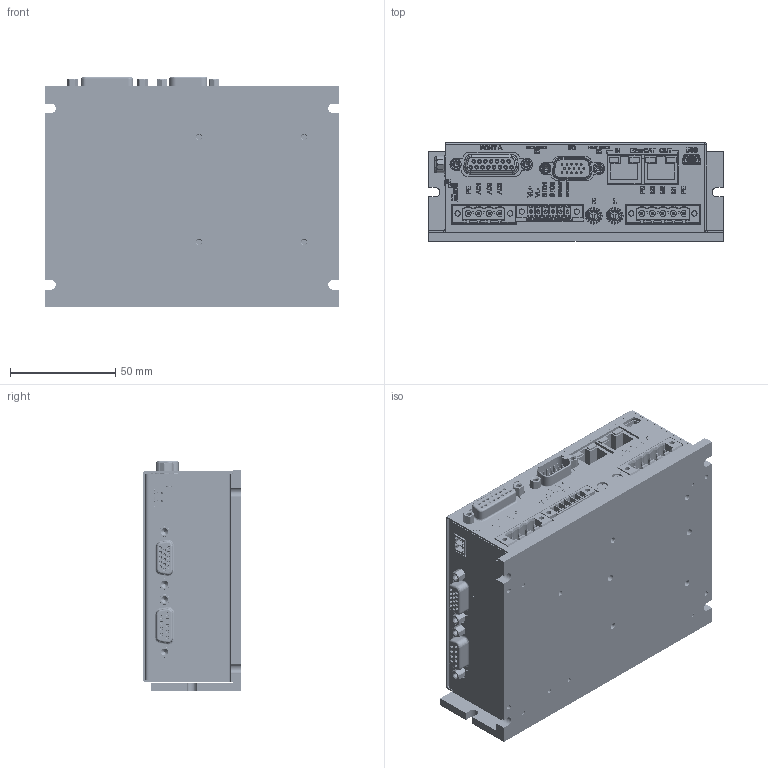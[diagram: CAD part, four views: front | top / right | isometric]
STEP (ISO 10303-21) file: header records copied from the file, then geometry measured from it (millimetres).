
FILE_DESCRIPTION (( 'STEP AP203' ), '1' );
FILE_NAME ('GOLD BASOON L SHAPE.STEP', '2013-12-05T10:41:32', ( '' ), ( '' ), 'SwSTEP 2.0', 'SolidWorks 2011', '' );
FILE_SCHEMA (( 'CONFIG_CONTROL_DESIGN' ));
Products named in the file (1): GOLD BASOON  L SHAPE
Bounding box: 140 x 46.85 x 109.4 mm (x, y, z)
Volume: 128733.8 mm3; surface area: 126754 mm2
Topology: 44 solids, 46 shells, 7933 faces, 20726 edges, 13394 vertices
Faces by surface type: plane 5261, cylinder 1187, bspline 1084, cone 369, torus 32
Entity records: 295616 total; most frequent: CARTESIAN_POINT 106255, ORIENTED_EDGE 41312, DIRECTION 34902, EDGE_CURVE 20656, VECTOR 15582, LINE 15582, VERTEX_POINT 13394, AXIS2_PLACEMENT_3D 9660
